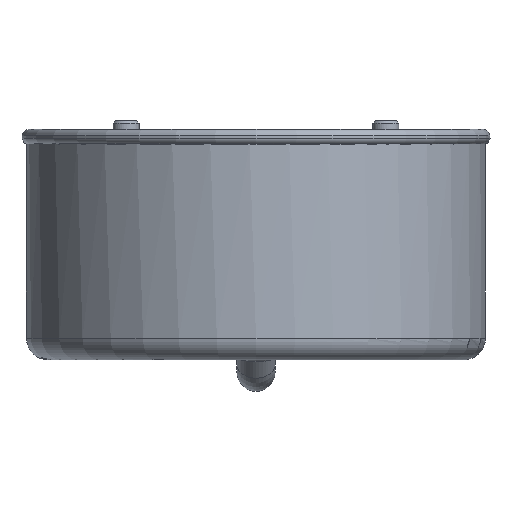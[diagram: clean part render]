
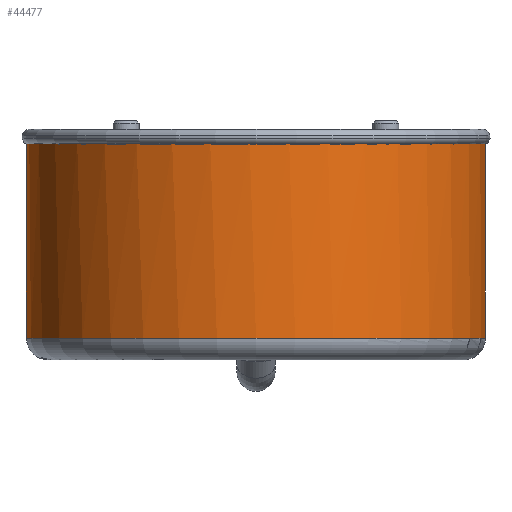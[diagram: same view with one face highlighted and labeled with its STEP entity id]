
A CAD part, left-side view. The second image highlights one B-rep face of the part: STEP entity #44477.
In plain terms, the highlighted cylindrical face has radius 26.5 mm (diameter 53 mm), a full revolution.
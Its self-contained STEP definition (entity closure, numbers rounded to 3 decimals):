
#121=ELLIPSE('',#48156,37.477,26.5);
#177=CYLINDRICAL_SURFACE('',#48155,26.5);
#870=CIRCLE('',#48151,26.5);
#872=CIRCLE('',#48154,26.5);
#1969=ORIENTED_EDGE('',*,*,#15010,.F.);
#1970=ORIENTED_EDGE('',*,*,#15008,.T.);
#1971=ORIENTED_EDGE('',*,*,#14991,.T.);
#1972=ORIENTED_EDGE('',*,*,#15011,.F.);
#1973=ORIENTED_EDGE('',*,*,#14994,.F.);
#14991=EDGE_CURVE('',#21520,#21522,#25815,.T.);
#14994=EDGE_CURVE('',#21525,#21526,#25817,.T.);
#15008=EDGE_CURVE('',#21525,#21520,#870,.T.);
#15010=EDGE_CURVE('',#21534,#21534,#872,.T.);
#15011=EDGE_CURVE('',#21526,#21522,#121,.T.);
#21520=VERTEX_POINT('',#64672);
#21522=VERTEX_POINT('',#64676);
#21525=VERTEX_POINT('',#64687);
#21526=VERTEX_POINT('',#64689);
#21534=VERTEX_POINT('',#64719);
#25815=LINE('',#64677,#31160);
#25817=LINE('',#64688,#31162);
#31160=VECTOR('',#51934,1000.);
#31162=VECTOR('',#51938,1000.);
#36519=EDGE_LOOP('',(#1969));
#36520=EDGE_LOOP('',(#1970,#1971,#1972,#1973));
#39472=FACE_BOUND('',#36519,.T.);
#39473=FACE_BOUND('',#36520,.T.);
#44477=ADVANCED_FACE('',(#39472,#39473),#177,.T.);
#48151=AXIS2_PLACEMENT_3D('',#64715,#51964,#51965);
#48154=AXIS2_PLACEMENT_3D('',#64718,#51970,#51971);
#48155=AXIS2_PLACEMENT_3D('',#64720,#51972,#51973);
#48156=AXIS2_PLACEMENT_3D('',#64721,#51974,#51975);
#51934=DIRECTION('',(0.,0.,1.));
#51938=DIRECTION('',(0.,0.,1.));
#51964=DIRECTION('',(0.,0.,1.));
#51965=DIRECTION('',(-1.,0.,0.));
#51970=DIRECTION('',(0.,0.,1.));
#51971=DIRECTION('',(1.,0.,0.));
#51972=DIRECTION('',(0.,0.,1.));
#51973=DIRECTION('',(-1.,0.,0.));
#51974=DIRECTION('',(0.707,0.,-0.707));
#51975=DIRECTION('',(0.707,0.,0.707));
#64672=CARTESIAN_POINT('',(61.455,31.367,-20.5));
#64676=CARTESIAN_POINT('',(61.455,31.367,-13.789));
#64677=CARTESIAN_POINT('',(61.455,31.367,-23.));
#64687=CARTESIAN_POINT('',(61.455,43.367,-20.5));
#64688=CARTESIAN_POINT('',(61.455,43.367,-23.));
#64689=CARTESIAN_POINT('',(61.455,43.367,-13.789));
#64715=CARTESIAN_POINT('',(35.643,37.367,-20.5));
#64718=CARTESIAN_POINT('',(35.643,37.367,2.));
#64719=CARTESIAN_POINT('',(62.143,37.367,2.));
#64720=CARTESIAN_POINT('',(35.643,37.367,-23.));
#64721=CARTESIAN_POINT('',(35.643,37.367,-39.6));
